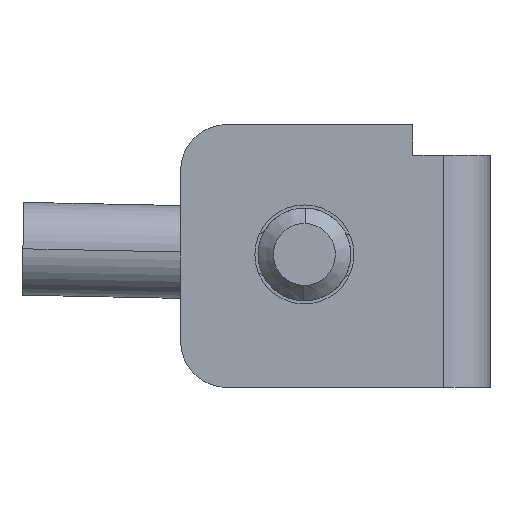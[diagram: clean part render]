
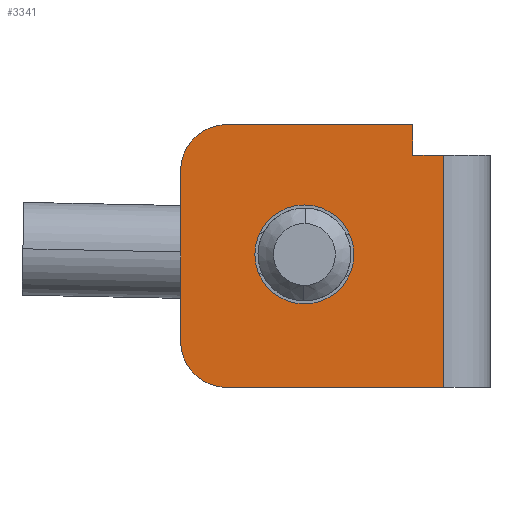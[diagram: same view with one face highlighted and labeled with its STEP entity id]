
A CAD part, left-side view. The second image highlights one B-rep face of the part: STEP entity #3341.
In plain terms, the highlighted planar face has unit normal (-1, 0, 0).
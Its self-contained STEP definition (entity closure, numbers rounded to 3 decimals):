
#41 = CARTESIAN_POINT ( 'NONE',  ( -50.048, 36.852, 7.9 ) ) ;
#47 = CARTESIAN_POINT ( 'NONE',  ( -50.048, 36.852, 4.7 ) ) ;
#102 = DIRECTION ( 'NONE',  ( 0., 0., 1. ) ) ;
#103 = DIRECTION ( 'NONE',  ( -1., 0., 0. ) ) ;
#104 = CARTESIAN_POINT ( 'NONE',  ( -50.048, 36.852, 6.3 ) ) ;
#105 = AXIS2_PLACEMENT_3D ( 'NONE', #104, #103, #102 ) ;
#111 = CIRCLE ( 'NONE', #105, 1.6 ) ;
#144 = PLANE ( 'NONE',  #203 ) ;
#147 = CARTESIAN_POINT ( 'NONE',  ( -50.048, 40.852, 3.5 ) ) ;
#149 = CARTESIAN_POINT ( 'NONE',  ( -50.048, 31.852, 10.5 ) ) ;
#161 = CARTESIAN_POINT ( 'NONE',  ( -50.048, 33.352, 9.5 ) ) ;
#162 = FACE_OUTER_BOUND ( 'NONE', #3329, .T. ) ;
#167 = FACE_BOUND ( 'NONE', #3344, .T. ) ;
#176 = CARTESIAN_POINT ( 'NONE',  ( -50.048, 32.352, 9.5 ) ) ;
#178 = DIRECTION ( 'NONE',  ( 0., 0., -1. ) ) ;
#179 = VECTOR ( 'NONE', #178, 1000. ) ;
#181 = DIRECTION ( 'NONE',  ( 0., 0., 1. ) ) ;
#182 = DIRECTION ( 'NONE',  ( -1., 0., 0. ) ) ;
#183 = CARTESIAN_POINT ( 'NONE',  ( -50.048, 32.352, 2. ) ) ;
#184 = LINE ( 'NONE', #224, #223 ) ;
#185 = AXIS2_PLACEMENT_3D ( 'NONE', #190, #182, #181 ) ;
#186 = DIRECTION ( 'NONE',  ( 0., 0., -1. ) ) ;
#187 = DIRECTION ( 'NONE',  ( -1., 0., 0. ) ) ;
#188 = AXIS2_PLACEMENT_3D ( 'NONE', #193, #187, #186 ) ;
#189 = CIRCLE ( 'NONE', #188, 1.5 ) ;
#190 = CARTESIAN_POINT ( 'NONE',  ( -50.048, 36.852, 6.3 ) ) ;
#191 = DIRECTION ( 'NONE',  ( 0., 0., -1. ) ) ;
#192 = DIRECTION ( 'NONE',  ( 1., 0., 0. ) ) ;
#193 = CARTESIAN_POINT ( 'NONE',  ( -50.048, 39.352, 3.5 ) ) ;
#194 = CARTESIAN_POINT ( 'NONE',  ( -50.048, 39.352, 2. ) ) ;
#196 = CIRCLE ( 'NONE', #185, 1.6 ) ;
#197 = CARTESIAN_POINT ( 'NONE',  ( -50.048, 40.852, 9. ) ) ;
#198 = CARTESIAN_POINT ( 'NONE',  ( -50.048, 40.852, 10.5 ) ) ;
#199 = LINE ( 'NONE', #198, #179 ) ;
#203 = AXIS2_PLACEMENT_3D ( 'NONE', #149, #192, #191 ) ;
#218 = DIRECTION ( 'NONE',  ( 0., 0., -1. ) ) ;
#219 = VECTOR ( 'NONE', #218, 1000. ) ;
#220 = CARTESIAN_POINT ( 'NONE',  ( -50.048, 32.352, 10.5 ) ) ;
#221 = LINE ( 'NONE', #220, #219 ) ;
#222 = DIRECTION ( 'NONE',  ( 0., -1., 0. ) ) ;
#223 = VECTOR ( 'NONE', #222, 1000. ) ;
#224 = CARTESIAN_POINT ( 'NONE',  ( -50.048, 31.852, 2. ) ) ;
#225 = DIRECTION ( 'NONE',  ( 0., 1., 0. ) ) ;
#226 = VECTOR ( 'NONE', #225, 1000. ) ;
#227 = CARTESIAN_POINT ( 'NONE',  ( -50.048, 31.852, 9.5 ) ) ;
#231 = LINE ( 'NONE', #227, #226 ) ;
#252 = CARTESIAN_POINT ( 'NONE',  ( -50.048, 33.352, 10.5 ) ) ;
#253 = DIRECTION ( 'NONE',  ( 0., -1., 0. ) ) ;
#254 = VECTOR ( 'NONE', #253, 1000. ) ;
#255 = CARTESIAN_POINT ( 'NONE',  ( -50.048, 31.852, 10.5 ) ) ;
#263 = DIRECTION ( 'NONE',  ( 0., 0., 1. ) ) ;
#264 = VECTOR ( 'NONE', #263, 1000. ) ;
#265 = CARTESIAN_POINT ( 'NONE',  ( -50.048, 33.352, 10.5 ) ) ;
#266 = LINE ( 'NONE', #255, #254 ) ;
#268 = LINE ( 'NONE', #265, #264 ) ;
#276 = DIRECTION ( 'NONE',  ( 0., 0., -1. ) ) ;
#277 = DIRECTION ( 'NONE',  ( -1., 0., 0. ) ) ;
#283 = AXIS2_PLACEMENT_3D ( 'NONE', #286, #277, #276 ) ;
#286 = CARTESIAN_POINT ( 'NONE',  ( -50.048, 39.352, 9. ) ) ;
#298 = CARTESIAN_POINT ( 'NONE',  ( -50.048, 39.352, 10.5 ) ) ;
#299 = CIRCLE ( 'NONE', #283, 1.5 ) ;
#3251 = VERTEX_POINT ( 'NONE', #47 ) ;
#3275 = EDGE_CURVE ( 'NONE', #3251, #3276, #111, .T. ) ;
#3276 = VERTEX_POINT ( 'NONE', #41 ) ;
#3328 = ORIENTED_EDGE ( 'NONE', *, *, #3384, .F. ) ;
#3329 = EDGE_LOOP ( 'NONE', ( #3355, #3349, #3353, #3365, #3338, #3348, #3328, #3377 ) ) ;
#3333 = VERTEX_POINT ( 'NONE', #147 ) ;
#3334 = ORIENTED_EDGE ( 'NONE', *, *, #3351, .F. ) ;
#3335 = VERTEX_POINT ( 'NONE', #197 ) ;
#3338 = ORIENTED_EDGE ( 'NONE', *, *, #3366, .T. ) ;
#3339 = ORIENTED_EDGE ( 'NONE', *, *, #3275, .F. ) ;
#3341 = ADVANCED_FACE ( 'NONE', ( #167, #162 ), #144, .F. ) ;
#3344 = EDGE_LOOP ( 'NONE', ( #3334, #3339 ) ) ;
#3347 = VERTEX_POINT ( 'NONE', #194 ) ;
#3348 = ORIENTED_EDGE ( 'NONE', *, *, #3382, .T. ) ;
#3349 = ORIENTED_EDGE ( 'NONE', *, *, #3350, .T. ) ;
#3350 = EDGE_CURVE ( 'NONE', #3333, #3347, #189, .T. ) ;
#3351 = EDGE_CURVE ( 'NONE', #3276, #3251, #196, .T. ) ;
#3352 = VERTEX_POINT ( 'NONE', #183 ) ;
#3353 = ORIENTED_EDGE ( 'NONE', *, *, #3367, .T. ) ;
#3354 = EDGE_CURVE ( 'NONE', #3335, #3333, #199, .T. ) ;
#3355 = ORIENTED_EDGE ( 'NONE', *, *, #3354, .T. ) ;
#3356 = VERTEX_POINT ( 'NONE', #161 ) ;
#3361 = VERTEX_POINT ( 'NONE', #176 ) ;
#3365 = ORIENTED_EDGE ( 'NONE', *, *, #3371, .F. ) ;
#3366 = EDGE_CURVE ( 'NONE', #3361, #3356, #231, .T. ) ;
#3367 = EDGE_CURVE ( 'NONE', #3347, #3352, #184, .T. ) ;
#3371 = EDGE_CURVE ( 'NONE', #3361, #3352, #221, .T. ) ;
#3377 = ORIENTED_EDGE ( 'NONE', *, *, #3400, .T. ) ;
#3382 = EDGE_CURVE ( 'NONE', #3356, #3388, #268, .T. ) ;
#3384 = EDGE_CURVE ( 'NONE', #3394, #3388, #266, .T. ) ;
#3388 = VERTEX_POINT ( 'NONE', #252 ) ;
#3394 = VERTEX_POINT ( 'NONE', #298 ) ;
#3400 = EDGE_CURVE ( 'NONE', #3394, #3335, #299, .T. ) ;
